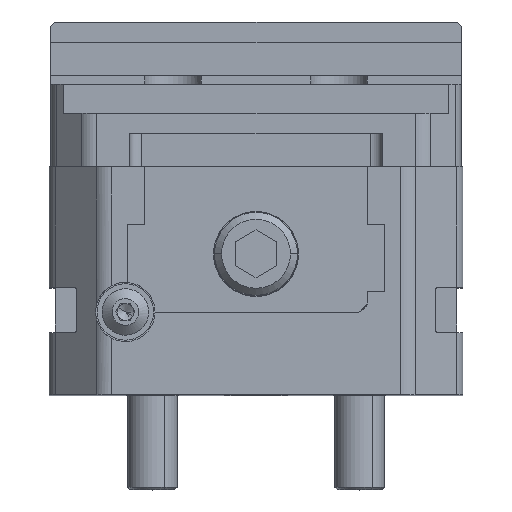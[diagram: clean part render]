
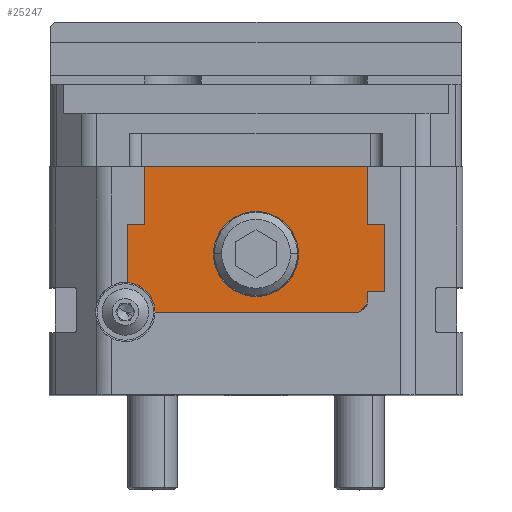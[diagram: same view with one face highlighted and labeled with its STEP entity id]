
A CAD part, top view. The second image highlights one B-rep face of the part: STEP entity #25247.
In plain terms, the highlighted planar face has unit normal (0, 0, 1) as drawn and (0, 0, -1) by its records, which use the part's own axes.
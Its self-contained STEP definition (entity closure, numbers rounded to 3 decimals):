
#388 = LINE ( 'NONE', #6904, #4912 ) ;
#487 = VERTEX_POINT ( 'NONE', #17983 ) ;
#681 = LINE ( 'NONE', #5696, #14990 ) ;
#746 = CARTESIAN_POINT ( 'NONE',  ( 0., 0., -23.75 ) ) ;
#1122 = CARTESIAN_POINT ( 'NONE',  ( 27., 21., -23.75 ) ) ;
#1387 = VERTEX_POINT ( 'NONE', #7399 ) ;
#1413 = VERTEX_POINT ( 'NONE', #27965 ) ;
#1928 = VERTEX_POINT ( 'NONE', #10019 ) ;
#2391 = CARTESIAN_POINT ( 'NONE',  ( 27., 35., -23.75 ) ) ;
#2529 = VERTEX_POINT ( 'NONE', #9318 ) ;
#2531 = CARTESIAN_POINT ( 'NONE',  ( -31., 21., -23.75 ) ) ;
#2585 = CARTESIAN_POINT ( 'NONE',  ( -24.9, 0., -23.75 ) ) ;
#2683 = EDGE_CURVE ( 'NONE', #23920, #25440, #681, .T. ) ;
#2752 = AXIS2_PLACEMENT_3D ( 'NONE', #17521, #21878, #21779 ) ;
#2759 = CARTESIAN_POINT ( 'NONE',  ( 31., 7.132, -23.75 ) ) ;
#2909 = ORIENTED_EDGE ( 'NONE', *, *, #14474, .F. ) ;
#3399 = DIRECTION ( 'NONE',  ( 0., -1., 0. ) ) ;
#3553 = DIRECTION ( 'NONE',  ( -1., 0., 0. ) ) ;
#3763 = FACE_BOUND ( 'NONE', #10961, .T. ) ;
#3898 = VECTOR ( 'NONE', #21637, 1000. ) ;
#4041 = CIRCLE ( 'NONE', #5941, 10.25 ) ;
#4576 = LINE ( 'NONE', #2585, #17097 ) ;
#4912 = VECTOR ( 'NONE', #15578, 1000. ) ;
#5016 = VERTEX_POINT ( 'NONE', #28537 ) ;
#5096 = LINE ( 'NONE', #7149, #10700 ) ;
#5696 = CARTESIAN_POINT ( 'NONE',  ( 27., 21., -23.75 ) ) ;
#5941 = AXIS2_PLACEMENT_3D ( 'NONE', #14675, #16893, #3553 ) ;
#6095 = LINE ( 'NONE', #22286, #14831 ) ;
#6210 = CARTESIAN_POINT ( 'NONE',  ( -31., 5., -23.75 ) ) ;
#6371 = DIRECTION ( 'NONE',  ( 0., -1., 0. ) ) ;
#6647 = CARTESIAN_POINT ( 'NONE',  ( 24.35, 0., -23.75 ) ) ;
#6726 = ORIENTED_EDGE ( 'NONE', *, *, #17151, .F. ) ;
#6904 = CARTESIAN_POINT ( 'NONE',  ( 31., 21., -23.75 ) ) ;
#7149 = CARTESIAN_POINT ( 'NONE',  ( -26.9, 5., -23.75 ) ) ;
#7399 = CARTESIAN_POINT ( 'NONE',  ( -27., 35., -23.75 ) ) ;
#7426 = DIRECTION ( 'NONE',  ( -1., 0., 0. ) ) ;
#8005 = ORIENTED_EDGE ( 'NONE', *, *, #11266, .F. ) ;
#8812 = ORIENTED_EDGE ( 'NONE', *, *, #25546, .F. ) ;
#9150 = ORIENTED_EDGE ( 'NONE', *, *, #2683, .F. ) ;
#9259 = VECTOR ( 'NONE', #7426, 1000. ) ;
#9318 = CARTESIAN_POINT ( 'NONE',  ( -24.9, 0., -23.75 ) ) ;
#9694 = CARTESIAN_POINT ( 'NONE',  ( -27., 21., -23.75 ) ) ;
#9890 = DIRECTION ( 'NONE',  ( 0., 1., 0. ) ) ;
#9923 = PLANE ( 'NONE',  #12098 ) ;
#10019 = CARTESIAN_POINT ( 'NONE',  ( 10.25, 14., -23.75 ) ) ;
#10583 = VECTOR ( 'NONE', #19867, 1000. ) ;
#10700 = VECTOR ( 'NONE', #15740, 1000. ) ;
#10828 = ORIENTED_EDGE ( 'NONE', *, *, #13416, .F. ) ;
#10961 = EDGE_LOOP ( 'NONE', ( #28384, #2909 ) ) ;
#11222 = VERTEX_POINT ( 'NONE', #2759 ) ;
#11261 = LINE ( 'NONE', #13173, #10583 ) ;
#11266 = EDGE_CURVE ( 'NONE', #19615, #23388, #17260, .T. ) ;
#11563 = DIRECTION ( 'NONE',  ( 0., 0., -1. ) ) ;
#11581 = EDGE_CURVE ( 'NONE', #2529, #17219, #11261, .T. ) ;
#12098 = AXIS2_PLACEMENT_3D ( 'NONE', #746, #22992, #23190 ) ;
#12297 = ORIENTED_EDGE ( 'NONE', *, *, #15273, .F. ) ;
#12378 = EDGE_CURVE ( 'NONE', #18376, #5016, #14696, .T. ) ;
#12583 = EDGE_CURVE ( 'NONE', #2529, #487, #4576, .T. ) ;
#13173 = CARTESIAN_POINT ( 'NONE',  ( -26.9, 0., -23.75 ) ) ;
#13373 = ORIENTED_EDGE ( 'NONE', *, *, #11581, .F. ) ;
#13416 = EDGE_CURVE ( 'NONE', #11222, #1413, #24304, .T. ) ;
#13517 = DIRECTION ( 'NONE',  ( -0.707, 0.707, 0. ) ) ;
#14264 = CARTESIAN_POINT ( 'NONE',  ( -31., 21., -23.75 ) ) ;
#14347 = ORIENTED_EDGE ( 'NONE', *, *, #22557, .F. ) ;
#14465 = EDGE_CURVE ( 'NONE', #5016, #487, #5096, .T. ) ;
#14474 = EDGE_CURVE ( 'NONE', #1928, #20357, #22803, .T. ) ;
#14675 = CARTESIAN_POINT ( 'NONE',  ( 0., 14., -23.75 ) ) ;
#14696 = LINE ( 'NONE', #6210, #3898 ) ;
#14744 = EDGE_CURVE ( 'NONE', #20357, #1928, #4041, .T. ) ;
#14831 = VECTOR ( 'NONE', #3399, 1000. ) ;
#14990 = VECTOR ( 'NONE', #9890, 1000. ) ;
#15273 = EDGE_CURVE ( 'NONE', #17219, #11222, #20370, .T. ) ;
#15578 = DIRECTION ( 'NONE',  ( -1., 0., 0. ) ) ;
#15740 = DIRECTION ( 'NONE',  ( 0., -1., 0. ) ) ;
#16122 = ORIENTED_EDGE ( 'NONE', *, *, #12583, .T. ) ;
#16126 = CARTESIAN_POINT ( 'NONE',  ( 0., 14., -23.75 ) ) ;
#16830 = CARTESIAN_POINT ( 'NONE',  ( 27., 35., -23.75 ) ) ;
#16893 = DIRECTION ( 'NONE',  ( 0., 0., -1. ) ) ;
#17097 = VECTOR ( 'NONE', #13517, 1000. ) ;
#17151 = EDGE_CURVE ( 'NONE', #1387, #19615, #24269, .T. ) ;
#17219 = VERTEX_POINT ( 'NONE', #6647 ) ;
#17260 = LINE ( 'NONE', #14264, #9259 ) ;
#17380 = VECTOR ( 'NONE', #27664, 1000. ) ;
#17400 = AXIS2_PLACEMENT_3D ( 'NONE', #16126, #11563, #17859 ) ;
#17521 = CARTESIAN_POINT ( 'NONE',  ( 31.5, 0., -23.75 ) ) ;
#17859 = DIRECTION ( 'NONE',  ( -1., 0., 0. ) ) ;
#17983 = CARTESIAN_POINT ( 'NONE',  ( -26.9, 2., -23.75 ) ) ;
#18315 = EDGE_CURVE ( 'NONE', #23388, #18376, #6095, .T. ) ;
#18354 = VECTOR ( 'NONE', #6371, 1000. ) ;
#18376 = VERTEX_POINT ( 'NONE', #26200 ) ;
#18418 = ORIENTED_EDGE ( 'NONE', *, *, #14465, .F. ) ;
#18708 = EDGE_LOOP ( 'NONE', ( #13373, #16122, #18418, #26704, #25048, #8005, #6726, #8812, #9150, #14347, #10828, #12297 ) ) ;
#19615 = VERTEX_POINT ( 'NONE', #9694 ) ;
#19867 = DIRECTION ( 'NONE',  ( 1., 0., 0. ) ) ;
#20032 = CARTESIAN_POINT ( 'NONE',  ( -10.25, 14., -23.75 ) ) ;
#20357 = VERTEX_POINT ( 'NONE', #20032 ) ;
#20370 = CIRCLE ( 'NONE', #2752, 7.15 ) ;
#20773 = VECTOR ( 'NONE', #28874, 1000. ) ;
#21637 = DIRECTION ( 'NONE',  ( 1., 0., 0. ) ) ;
#21779 = DIRECTION ( 'NONE',  ( -1., 0., 0. ) ) ;
#21878 = DIRECTION ( 'NONE',  ( 0., 0., -1. ) ) ;
#22188 = CARTESIAN_POINT ( 'NONE',  ( -27., 21., -23.75 ) ) ;
#22286 = CARTESIAN_POINT ( 'NONE',  ( -31., 5., -23.75 ) ) ;
#22557 = EDGE_CURVE ( 'NONE', #1413, #23920, #388, .T. ) ;
#22803 = CIRCLE ( 'NONE', #17400, 10.25 ) ;
#22992 = DIRECTION ( 'NONE',  ( 0., 0., 1. ) ) ;
#23172 = LINE ( 'NONE', #2391, #20773 ) ;
#23190 = DIRECTION ( 'NONE',  ( 1., 0., 0. ) ) ;
#23202 = FACE_OUTER_BOUND ( 'NONE', #18708, .T. ) ;
#23388 = VERTEX_POINT ( 'NONE', #2531 ) ;
#23920 = VERTEX_POINT ( 'NONE', #1122 ) ;
#24269 = LINE ( 'NONE', #22188, #18354 ) ;
#24304 = LINE ( 'NONE', #25228, #17380 ) ;
#25048 = ORIENTED_EDGE ( 'NONE', *, *, #18315, .F. ) ;
#25228 = CARTESIAN_POINT ( 'NONE',  ( 31., 21., -23.75 ) ) ;
#25247 = ADVANCED_FACE ( 'NONE', ( #23202, #3763 ), #9923, .F. ) ;
#25440 = VERTEX_POINT ( 'NONE', #16830 ) ;
#25546 = EDGE_CURVE ( 'NONE', #25440, #1387, #23172, .T. ) ;
#26200 = CARTESIAN_POINT ( 'NONE',  ( -31., 5., -23.75 ) ) ;
#26704 = ORIENTED_EDGE ( 'NONE', *, *, #12378, .F. ) ;
#27664 = DIRECTION ( 'NONE',  ( 0., 1., 0. ) ) ;
#27965 = CARTESIAN_POINT ( 'NONE',  ( 31., 21., -23.75 ) ) ;
#28384 = ORIENTED_EDGE ( 'NONE', *, *, #14744, .F. ) ;
#28537 = CARTESIAN_POINT ( 'NONE',  ( -26.9, 5., -23.75 ) ) ;
#28874 = DIRECTION ( 'NONE',  ( -1., 0., 0. ) ) ;
